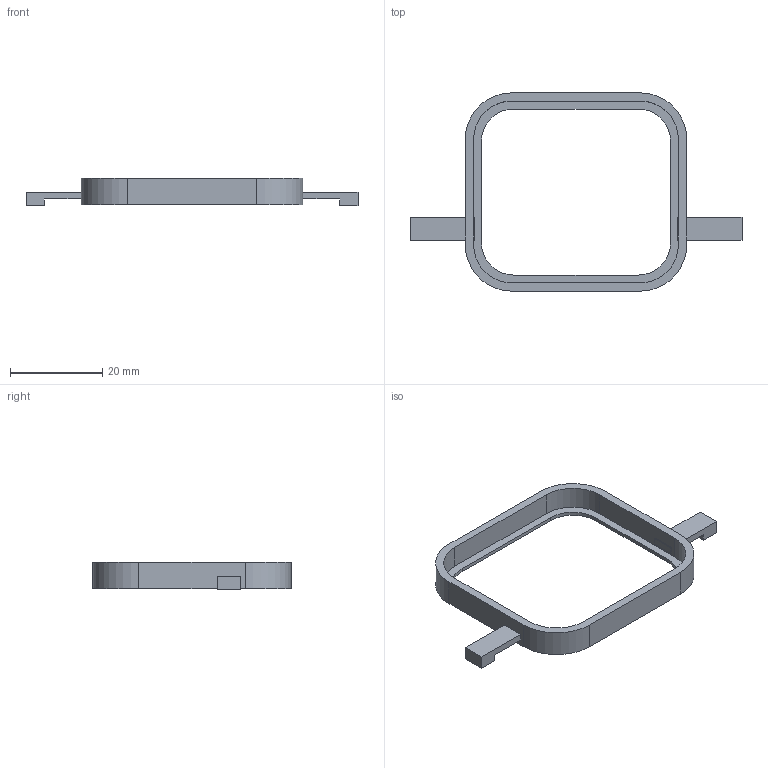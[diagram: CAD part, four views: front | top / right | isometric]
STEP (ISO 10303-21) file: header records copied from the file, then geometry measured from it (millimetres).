
FILE_DESCRIPTION(('Open CASCADE Model'),'2;1');
FILE_NAME('Open CASCADE Shape Model','2026-09-08T13:32:06',('Author'),( 'Open CASCADE'),'Open CASCADE STEP processor 7.7','Open CASCADE 7.7' ,'Unknown');
FILE_SCHEMA(('AUTOMOTIVE_DESIGN { 1 0 10303 214 1 1 1 1 }'));
Length unit declared in the file: millimetre
Products named in the file (1): Open CASCADE STEP translator 7.7 9
Bounding box: 72 x 43 x 6 mm (x, y, z)
Volume: 2111 mm3; surface area: 3296.9 mm2
Topology: 1 solids, 1 shells, 51 faces, 132 edges, 88 vertices
Faces by surface type: plane 39, cylinder 12
Entity records: 3292 total; most frequent: CARTESIAN_POINT 560, DIRECTION 520, LINE 348, VECTOR 348, ORIENTED_EDGE 264, PCURVE 264, DEFINITIONAL_REPRESENTATION 264, EDGE_CURVE 132
